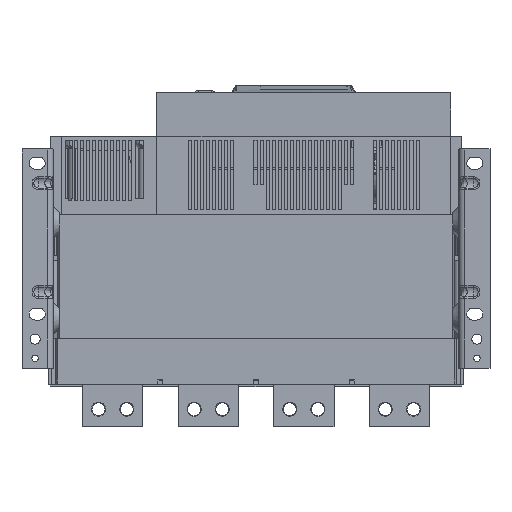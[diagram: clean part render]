
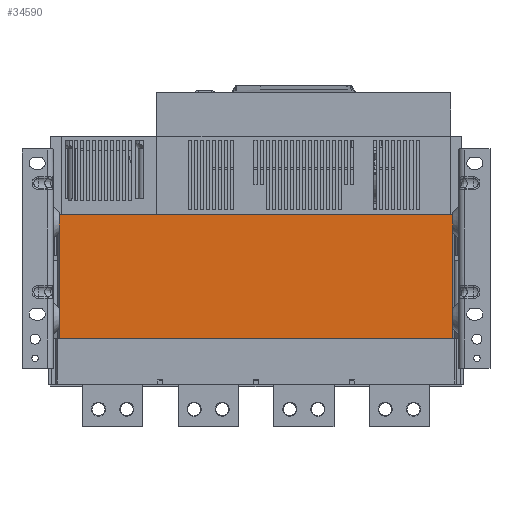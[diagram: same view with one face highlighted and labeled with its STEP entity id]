
A CAD part, top view. The second image highlights one B-rep face of the part: STEP entity #34590.
In plain terms, the highlighted planar face has unit normal (0, 0, 1).
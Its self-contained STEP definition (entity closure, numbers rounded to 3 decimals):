
#1496=DIRECTION('',(1.,0.,0.));
#1497=VECTOR('',#1496,391.);
#1498=CARTESIAN_POINT('',(-243.,123.,150.));
#1499=LINE('',#1498,#1497);
#4694=DIRECTION('',(1.,0.,0.));
#4695=VECTOR('',#4694,391.);
#4696=CARTESIAN_POINT('',(-243.,0.,150.));
#4697=LINE('',#4696,#4695);
#11448=DIRECTION('',(0.,1.,0.));
#11449=VECTOR('',#11448,123.);
#11450=CARTESIAN_POINT('',(148.,0.,150.));
#11451=LINE('',#11450,#11449);
#11455=DIRECTION('',(0.,1.,0.));
#11456=VECTOR('',#11455,123.);
#11457=CARTESIAN_POINT('',(-243.,0.,150.));
#11458=LINE('',#11457,#11456);
#22440=CARTESIAN_POINT('',(-243.,0.,150.));
#22441=VERTEX_POINT('',#22440);
#22442=CARTESIAN_POINT('',(148.,0.,150.));
#22443=VERTEX_POINT('',#22442);
#22468=CARTESIAN_POINT('',(-243.,123.,150.));
#22469=CARTESIAN_POINT('',(148.,123.,150.));
#22470=VERTEX_POINT('',#22468);
#22471=VERTEX_POINT('',#22469);
#34578=CARTESIAN_POINT('',(-243.,0.,150.));
#34579=DIRECTION('',(0.,0.,1.));
#34580=DIRECTION('',(1.,0.,0.));
#34581=AXIS2_PLACEMENT_3D('',#34578,#34579,#34580);
#34582=PLANE('',#34581);
#34583=ORIENTED_EDGE('',*,*,#28732,.F.);
#34585=ORIENTED_EDGE('',*,*,#34584,.T.);
#34586=ORIENTED_EDGE('',*,*,#27047,.T.);
#34587=ORIENTED_EDGE('',*,*,#34571,.F.);
#34588=EDGE_LOOP('',(#34583,#34585,#34586,#34587));
#34589=FACE_OUTER_BOUND('',#34588,.F.);
#34590=ADVANCED_FACE('',(#34589),#34582,.T.);
#27047=EDGE_CURVE('',#22470,#22471,#1499,.T.);
#28732=EDGE_CURVE('',#22441,#22443,#4697,.T.);
#34571=EDGE_CURVE('',#22443,#22471,#11451,.T.);
#34584=EDGE_CURVE('',#22441,#22470,#11458,.T.);
